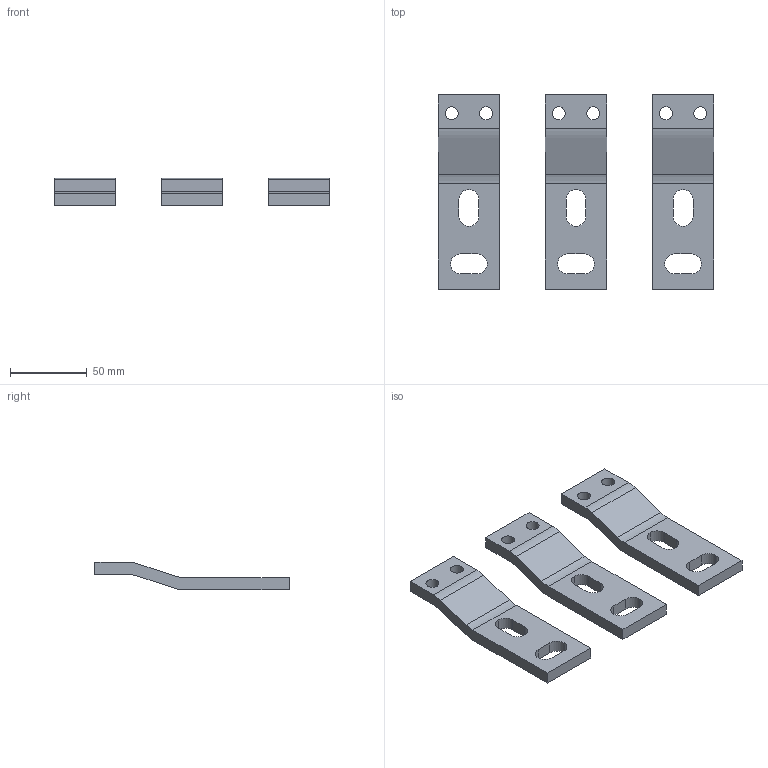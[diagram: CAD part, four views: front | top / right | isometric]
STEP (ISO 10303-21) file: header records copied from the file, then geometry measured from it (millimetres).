
FILE_DESCRIPTION(('FreeCAD Model'),'2;1');
FILE_NAME('Open CASCADE Shape Model','2022-08-23T10:55:25',( 'Engenharia Metaltex'),('Metaltex'), 'Open CASCADE STEP processor 7.5','FreeCAD','Unknown');
FILE_SCHEMA(('AUTOMOTIVE_DESIGN { 1 0 10303 214 1 1 1 1 }'));
Length unit declared in the file: millimetre
Products named in the file (4): DCM-T800; Body094; Body095; Body096
Assembly tree (3 placements, depth 2):
  DCM-T800
    Body094
    Body095
    Body096
Bounding box: 180 x 126.85 x 18 mm (x, y, z)
Volume: 105810 mm3; surface area: 39124.2 mm2
Topology: 3 solids, 3 shells, 96 faces, 270 edges, 180 vertices
Faces by surface type: plane 54, cylinder 42
Full cylindrical faces by diameter (mm): 8.5 x6
Entity records: 6876 total; most frequent: CARTESIAN_POINT 1306, DIRECTION 1058, LINE 642, VECTOR 642, ORIENTED_EDGE 540, PCURVE 540, DEFINITIONAL_REPRESENTATION 540, EDGE_CURVE 270
